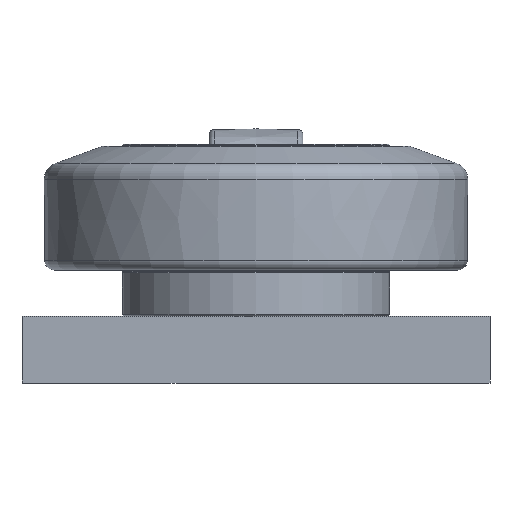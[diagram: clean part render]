
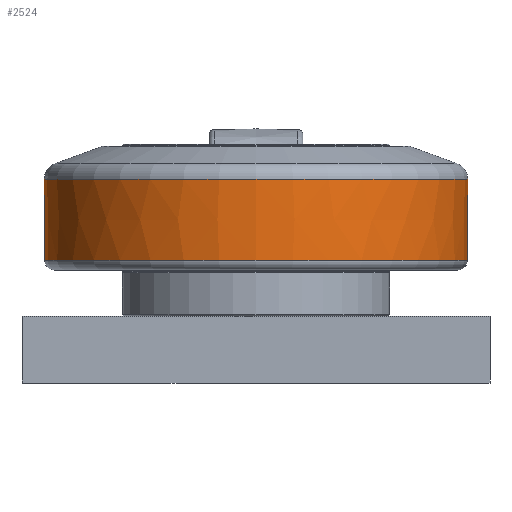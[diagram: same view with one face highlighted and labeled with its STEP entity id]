
A CAD part, front view. The second image highlights one B-rep face of the part: STEP entity #2524.
In plain terms, the highlighted free-form (B-spline) face has degree [2, 2] with [3, 9] control points.
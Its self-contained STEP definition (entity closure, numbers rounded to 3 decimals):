
#55=(
BOUNDED_SURFACE()
B_SPLINE_SURFACE(2,2,((#3802,#3803,#3804,#3805,#3806,#3807,#3808,#3809,
#3810),(#3811,#3812,#3813,#3814,#3815,#3816,#3817,#3818,#3819),(#3820,#3821,
#3822,#3823,#3824,#3825,#3826,#3827,#3828)),.UNSPECIFIED.,.F.,.T.,.F.)
B_SPLINE_SURFACE_WITH_KNOTS((3,3),(3,2,2,2,3),(-0.016,0.009),
(-3.142,-1.571,0.,1.571,3.142),
 .UNSPECIFIED.)
GEOMETRIC_REPRESENTATION_ITEM()
RATIONAL_B_SPLINE_SURFACE(((1.,0.707,1.,0.707,1.,
0.707,1.,0.707,1.),(1.,0.707,
1.,0.707,1.,0.707,
1.,0.707,1.),(1.,0.707,
1.,0.707,1.,0.707,1.,0.707,1.)))
REPRESENTATION_ITEM('')
SURFACE()
);
#223=FACE_OUTER_BOUND('',#374,.T.);
#374=EDGE_LOOP('',(#1799,#1800,#1801,#1802,#1803,#1804));
#979=CIRCLE('',#2711,63.362);
#980=CIRCLE('',#2712,63.362);
#982=CIRCLE('',#2714,1000.);
#983=CIRCLE('',#2715,63.279);
#984=CIRCLE('',#2716,63.279);
#1127=VERTEX_POINT('',#3796);
#1128=VERTEX_POINT('',#3798);
#1129=VERTEX_POINT('',#3829);
#1130=VERTEX_POINT('',#3831);
#1394=EDGE_CURVE('',#1127,#1128,#979,.T.);
#1395=EDGE_CURVE('',#1128,#1127,#980,.T.);
#1397=EDGE_CURVE('',#1127,#1129,#982,.T.);
#1398=EDGE_CURVE('',#1130,#1129,#983,.T.);
#1399=EDGE_CURVE('',#1129,#1130,#984,.T.);
#1799=ORIENTED_EDGE('',*,*,#1395,.F.);
#1800=ORIENTED_EDGE('',*,*,#1394,.F.);
#1801=ORIENTED_EDGE('',*,*,#1397,.T.);
#1802=ORIENTED_EDGE('',*,*,#1398,.F.);
#1803=ORIENTED_EDGE('',*,*,#1399,.F.);
#1804=ORIENTED_EDGE('',*,*,#1397,.F.);
#2524=ADVANCED_FACE('',(#223),#55,.F.);
#2711=AXIS2_PLACEMENT_3D('',#3799,#3053,#3054);
#2712=AXIS2_PLACEMENT_3D('',#3800,#3055,#3056);
#2714=AXIS2_PLACEMENT_3D('',#3830,#3059,#3060);
#2715=AXIS2_PLACEMENT_3D('',#3832,#3061,#3062);
#2716=AXIS2_PLACEMENT_3D('',#3833,#3063,#3064);
#3053=DIRECTION('center_axis',(0.,0.,
1.));
#3054=DIRECTION('ref_axis',(-1.,0.,0.));
#3055=DIRECTION('center_axis',(0.,0.,
1.));
#3056=DIRECTION('ref_axis',(-1.,0.,0.));
#3059=DIRECTION('center_axis',(-1.,0.,0.));
#3060=DIRECTION('ref_axis',(0.,1.,0.));
#3061=DIRECTION('center_axis',(0.,0.,
-1.));
#3062=DIRECTION('ref_axis',(-1.,0.,0.));
#3063=DIRECTION('center_axis',(0.,0.,
-1.));
#3064=DIRECTION('ref_axis',(-1.,0.,0.));
#3796=CARTESIAN_POINT('',(-4.114,26.896,26.023));
#3798=CARTESIAN_POINT('',(59.248,-36.466,26.023));
#3799=CARTESIAN_POINT('Origin',(-4.114,-36.466,26.023));
#3800=CARTESIAN_POINT('Origin',(-4.114,-36.466,26.023));
#3802=CARTESIAN_POINT('Ctrl Pts',(-4.114,26.814,1.753));
#3803=CARTESIAN_POINT('Ctrl Pts',(-67.394,26.814,1.753));
#3804=CARTESIAN_POINT('Ctrl Pts',(-67.394,-36.466,1.753));
#3805=CARTESIAN_POINT('Ctrl Pts',(-67.394,-99.745,1.753));
#3806=CARTESIAN_POINT('Ctrl Pts',(-4.114,-99.745,1.753));
#3807=CARTESIAN_POINT('Ctrl Pts',(59.165,-99.745,1.753));
#3808=CARTESIAN_POINT('Ctrl Pts',(59.165,-36.466,1.753));
#3809=CARTESIAN_POINT('Ctrl Pts',(59.165,26.814,1.753));
#3810=CARTESIAN_POINT('Ctrl Pts',(-4.114,26.814,1.753));
#3811=CARTESIAN_POINT('Ctrl Pts',(-4.114,27.002,13.888));
#3812=CARTESIAN_POINT('Ctrl Pts',(-67.582,27.002,13.888));
#3813=CARTESIAN_POINT('Ctrl Pts',(-67.582,-36.466,13.888));
#3814=CARTESIAN_POINT('Ctrl Pts',(-67.582,-99.933,13.888));
#3815=CARTESIAN_POINT('Ctrl Pts',(-4.114,-99.933,13.888));
#3816=CARTESIAN_POINT('Ctrl Pts',(59.353,-99.933,13.888));
#3817=CARTESIAN_POINT('Ctrl Pts',(59.353,-36.466,13.888));
#3818=CARTESIAN_POINT('Ctrl Pts',(59.353,27.002,13.888));
#3819=CARTESIAN_POINT('Ctrl Pts',(-4.114,27.002,13.888));
#3820=CARTESIAN_POINT('Ctrl Pts',(-4.114,26.896,26.023));
#3821=CARTESIAN_POINT('Ctrl Pts',(-67.476,26.896,26.023));
#3822=CARTESIAN_POINT('Ctrl Pts',(-67.476,-36.466,26.023));
#3823=CARTESIAN_POINT('Ctrl Pts',(-67.476,-99.827,26.023));
#3824=CARTESIAN_POINT('Ctrl Pts',(-4.114,-99.827,26.023));
#3825=CARTESIAN_POINT('Ctrl Pts',(59.248,-99.827,26.023));
#3826=CARTESIAN_POINT('Ctrl Pts',(59.248,-36.466,26.023));
#3827=CARTESIAN_POINT('Ctrl Pts',(59.248,26.896,26.023));
#3828=CARTESIAN_POINT('Ctrl Pts',(-4.114,26.896,26.023));
#3829=CARTESIAN_POINT('',(-4.114,26.814,1.753));
#3830=CARTESIAN_POINT('Origin',(-4.114,-973.066,17.3));
#3831=CARTESIAN_POINT('',(59.165,-36.466,1.753));
#3832=CARTESIAN_POINT('Origin',(-4.114,-36.466,1.753));
#3833=CARTESIAN_POINT('Origin',(-4.114,-36.466,1.753));
